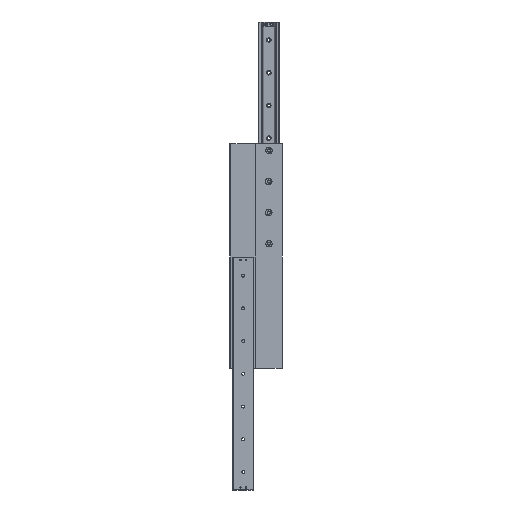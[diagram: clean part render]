
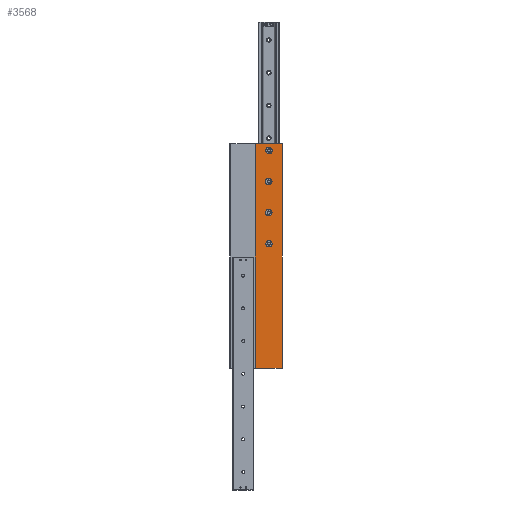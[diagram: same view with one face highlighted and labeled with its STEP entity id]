
A CAD part, left-side view. The second image highlights one B-rep face of the part: STEP entity #3568.
In plain terms, the highlighted planar face has unit normal (-1, 0, 0).
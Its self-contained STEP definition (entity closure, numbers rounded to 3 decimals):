
#209 = CIRCLE ( 'NONE', #508, 8. ) ;
#259 = DIRECTION ( 'NONE',  ( 0., 0., -1. ) ) ;
#508 = AXIS2_PLACEMENT_3D ( 'NONE', #2304, #8938, #1569 ) ;
#559 = LINE ( 'NONE', #5090, #8355 ) ;
#784 = CARTESIAN_POINT ( 'NONE',  ( 0., 81.6, 686. ) ) ;
#1007 = LINE ( 'NONE', #6249, #5182 ) ;
#1281 = FACE_BOUND ( 'NONE', #3993, .T. ) ;
#1337 = FACE_OUTER_BOUND ( 'NONE', #5117, .T. ) ;
#1391 = CARTESIAN_POINT ( 'NONE',  ( 0., 0., 686. ) ) ;
#1569 = DIRECTION ( 'NONE',  ( 0., 0., 1. ) ) ;
#1629 = CARTESIAN_POINT ( 'NONE',  ( 0., 40.3, 380.5 ) ) ;
#1804 = CARTESIAN_POINT ( 'NONE',  ( 0., 41.3, 578.5 ) ) ;
#1971 = CARTESIAN_POINT ( 'NONE',  ( 0., 0., 0. ) ) ;
#2012 = FACE_BOUND ( 'NONE', #6513, .T. ) ;
#2082 = ORIENTED_EDGE ( 'NONE', *, *, #6347, .F. ) ;
#2295 = CARTESIAN_POINT ( 'NONE',  ( 0., 0., 686. ) ) ;
#2304 = CARTESIAN_POINT ( 'NONE',  ( 0., 41.3, 570.5 ) ) ;
#2402 = CARTESIAN_POINT ( 'NONE',  ( 0., 81.6, 0. ) ) ;
#2404 = DIRECTION ( 'NONE',  ( 0., 0., 1. ) ) ;
#2765 = EDGE_CURVE ( 'NONE', #8466, #4867, #2912, .T. ) ;
#2812 = DIRECTION ( 'NONE',  ( 0., 1., 0. ) ) ;
#2890 = ORIENTED_EDGE ( 'NONE', *, *, #5763, .T. ) ;
#2912 = LINE ( 'NONE', #1391, #8194 ) ;
#2925 = DIRECTION ( 'NONE',  ( 0., 0., -1. ) ) ;
#3254 = CIRCLE ( 'NONE', #8756, 8. ) ;
#3489 = FACE_BOUND ( 'NONE', #5726, .T. ) ;
#3568 = ADVANCED_FACE ( 'NONE', ( #2012, #5071, #3489, #1281, #1337 ), #7272, .T. ) ;
#3581 = DIRECTION ( 'NONE',  ( 0., 0., 1. ) ) ;
#3635 = DIRECTION ( 'NONE',  ( -1., 0., 0. ) ) ;
#3642 = VERTEX_POINT ( 'NONE', #2402 ) ;
#3714 = EDGE_CURVE ( 'NONE', #5581, #5581, #209, .T. ) ;
#3843 = EDGE_LOOP ( 'NONE', ( #4805 ) ) ;
#3939 = EDGE_CURVE ( 'NONE', #4997, #4997, #3254, .T. ) ;
#3978 = DIRECTION ( 'NONE',  ( -1., 0., 0. ) ) ;
#3993 = EDGE_LOOP ( 'NONE', ( #2082 ) ) ;
#4103 = DIRECTION ( 'NONE',  ( 0., 1., 0. ) ) ;
#4119 = EDGE_CURVE ( 'NONE', #8466, #4653, #9036, .T. ) ;
#4313 = CARTESIAN_POINT ( 'NONE',  ( 0., 40.3, 673.5 ) ) ;
#4402 = ORIENTED_EDGE ( 'NONE', *, *, #2765, .T. ) ;
#4403 = VERTEX_POINT ( 'NONE', #4313 ) ;
#4645 = CARTESIAN_POINT ( 'NONE',  ( 0., 0., 686. ) ) ;
#4653 = VERTEX_POINT ( 'NONE', #1971 ) ;
#4776 = DIRECTION ( 'NONE',  ( 0., 0., 1. ) ) ;
#4805 = ORIENTED_EDGE ( 'NONE', *, *, #3939, .F. ) ;
#4867 = VERTEX_POINT ( 'NONE', #784 ) ;
#4877 = AXIS2_PLACEMENT_3D ( 'NONE', #6230, #8401, #4776 ) ;
#4997 = VERTEX_POINT ( 'NONE', #5625 ) ;
#5025 = CIRCLE ( 'NONE', #9417, 8. ) ;
#5071 = FACE_BOUND ( 'NONE', #3843, .T. ) ;
#5090 = CARTESIAN_POINT ( 'NONE',  ( 0., 0., 0. ) ) ;
#5117 = EDGE_LOOP ( 'NONE', ( #5274, #9718, #4402, #2890 ) ) ;
#5182 = VECTOR ( 'NONE', #259, 1000. ) ;
#5274 = ORIENTED_EDGE ( 'NONE', *, *, #8276, .F. ) ;
#5581 = VERTEX_POINT ( 'NONE', #1804 ) ;
#5625 = CARTESIAN_POINT ( 'NONE',  ( 0., 41.3, 483.5 ) ) ;
#5708 = AXIS2_PLACEMENT_3D ( 'NONE', #8706, #3635, #3581 ) ;
#5726 = EDGE_LOOP ( 'NONE', ( #9241 ) ) ;
#5763 = EDGE_CURVE ( 'NONE', #4867, #3642, #1007, .T. ) ;
#5970 = CIRCLE ( 'NONE', #4877, 8. ) ;
#6108 = EDGE_CURVE ( 'NONE', #6313, #6313, #5025, .T. ) ;
#6200 = ORIENTED_EDGE ( 'NONE', *, *, #6108, .F. ) ;
#6230 = CARTESIAN_POINT ( 'NONE',  ( 0., 40.3, 665.5 ) ) ;
#6249 = CARTESIAN_POINT ( 'NONE',  ( 0., 81.6, 686. ) ) ;
#6313 = VERTEX_POINT ( 'NONE', #9326 ) ;
#6347 = EDGE_CURVE ( 'NONE', #4403, #4403, #5970, .T. ) ;
#6513 = EDGE_LOOP ( 'NONE', ( #6200 ) ) ;
#7154 = DIRECTION ( 'NONE',  ( -1., 0., 0. ) ) ;
#7272 = PLANE ( 'NONE',  #5708 ) ;
#7335 = VECTOR ( 'NONE', #2925, 1000. ) ;
#8128 = DIRECTION ( 'NONE',  ( 0., 0., 1. ) ) ;
#8194 = VECTOR ( 'NONE', #2812, 1000. ) ;
#8276 = EDGE_CURVE ( 'NONE', #4653, #3642, #559, .T. ) ;
#8355 = VECTOR ( 'NONE', #4103, 1000. ) ;
#8401 = DIRECTION ( 'NONE',  ( -1., 0., 0. ) ) ;
#8466 = VERTEX_POINT ( 'NONE', #4645 ) ;
#8706 = CARTESIAN_POINT ( 'NONE',  ( 0., 0., 686. ) ) ;
#8756 = AXIS2_PLACEMENT_3D ( 'NONE', #8884, #7154, #8128 ) ;
#8884 = CARTESIAN_POINT ( 'NONE',  ( 0., 41.3, 475.5 ) ) ;
#8938 = DIRECTION ( 'NONE',  ( -1., 0., 0. ) ) ;
#9036 = LINE ( 'NONE', #2295, #7335 ) ;
#9241 = ORIENTED_EDGE ( 'NONE', *, *, #3714, .F. ) ;
#9326 = CARTESIAN_POINT ( 'NONE',  ( 0., 40.3, 388.5 ) ) ;
#9417 = AXIS2_PLACEMENT_3D ( 'NONE', #1629, #3978, #2404 ) ;
#9718 = ORIENTED_EDGE ( 'NONE', *, *, #4119, .F. ) ;
